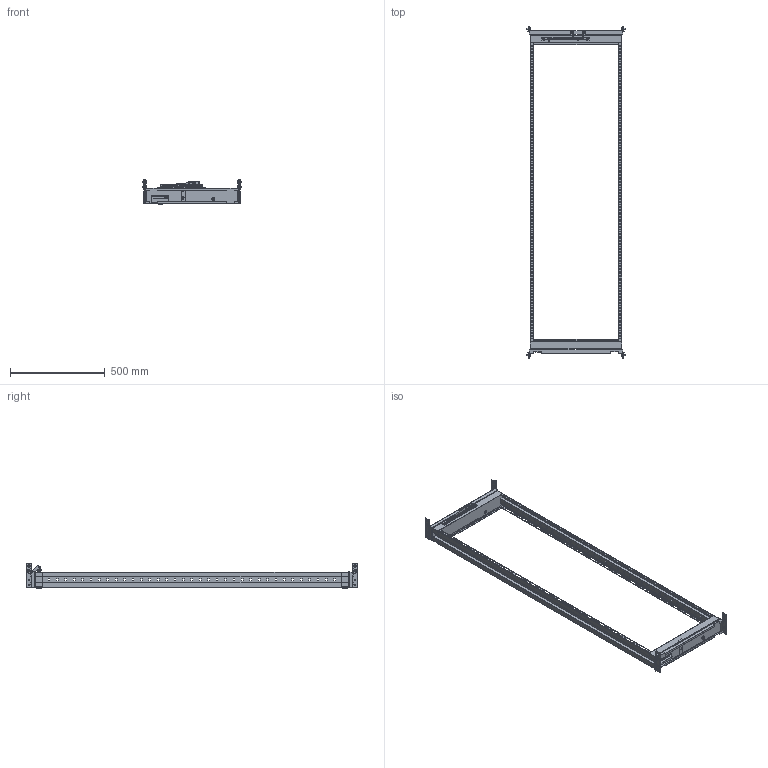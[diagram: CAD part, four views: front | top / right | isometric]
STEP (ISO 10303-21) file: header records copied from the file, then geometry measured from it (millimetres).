
FILE_DESCRIPTION(('Open CASCADE Model'),'2;1');
FILE_NAME('Open CASCADE Shape Model','2025-03-20T14:53:51',('Author'),( 'Open CASCADE'),'Open CASCADE STEP processor 7.8','Open CASCADE 7.8' ,'Unknown');
FILE_SCHEMA(('AUTOMOTIVE_DESIGN { 1 0 10303 214 1 1 1 1 }'));
Length unit declared in the file: millimetre
Products named in the file (30): Compound1; Compound2; Solid1; Solid2; Solid3; Compound3; Solid4; Solid5; Solid6; Solid7; Solid8; Solid9; Solid10; Solid11; Solid12; Solid13; Solid14; Solid15; Compound4; Solid16; Solid17; Solid18; Solid19; Solid20; Solid21; Compound5; Solid22; Solid23; Solid24; Solid25
Assembly tree (50 placements, depth 3):
  Compound1
    Compound2
      Solid1
      Solid2  x2
      Solid3
    Compound3
      Solid4
      Solid2  x2
      Solid3
    Solid5  x2
    Solid6  x2
    Solid7
    Solid8
    Solid9
    Solid10
    Solid11
    Solid12
    Solid13  x2
    Solid14  x4
    Solid15  x8
    Compound4
      Solid16  x2
      Solid17
      Solid18  x2
      Solid19
      Solid20  x2
      Solid21  x2
    Compound5
      Solid22
      Solid23
    Solid24
    Solid25
Bounding box: 526 x 1755 x 130.5 mm (x, y, z)
Volume: 1392722.3 mm3; surface area: 1763364.4 mm2
Topology: 46 solids, 64 shells, 4484 faces, 12945 edges, 8519 vertices
Faces by surface type: plane 3286, cylinder 582, cone 222, bspline 180, torus 156, sphere 58
Entity records: 85156 total; most frequent: CARTESIAN_POINT 21024, ORIENTED_EDGE 13512, DIRECTION 12008, EDGE_CURVE 6926, LINE 5526, VECTOR 5526, VERTEX_POINT 4590, AXIS2_PLACEMENT_3D 3241
